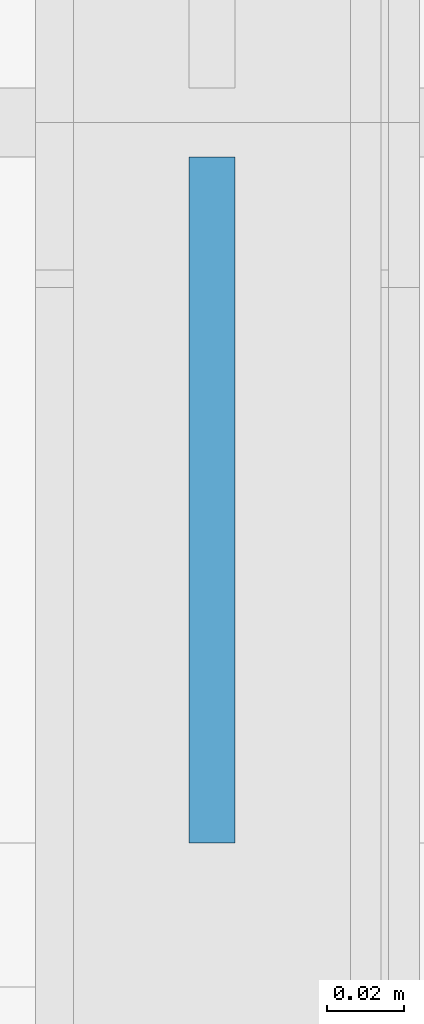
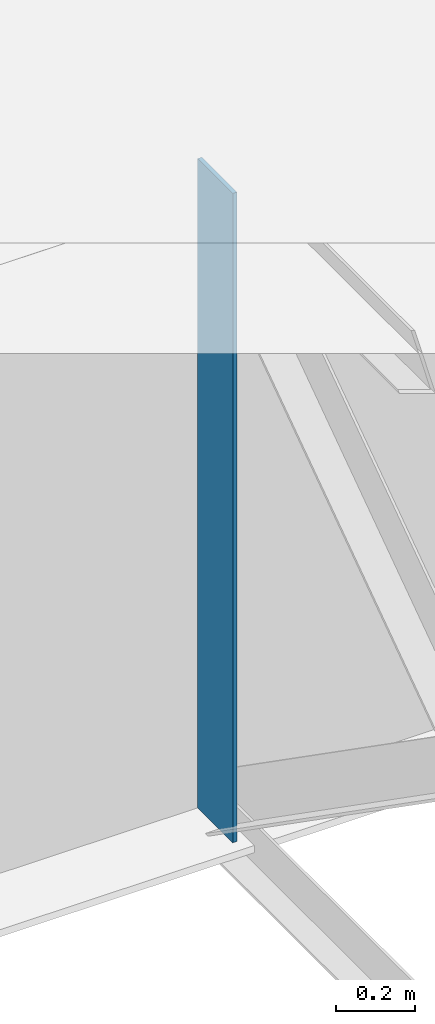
# One storey, part 6 of 11: 1 plate.
"""IFC4 building model written with IfcOpenShell, lengths in metres."""

from ifc_helpers import new_model, si_unit, frame, origin, origin_with_axes, origin_2d_with_axis, place, context, subcontext, project, spatial, rectangle, extrude, element, save


model = new_model("IFC4")

# Units and contexts
model_context = context("Model", 3, precision=1e-05, world=origin())
body_context = subcontext(model_context, "Body", "Model", "MODEL_VIEW")
ifc_project = project(units=[si_unit("LENGTHUNIT", "METRE"), si_unit("AREAUNIT", "SQUARE_METRE"), si_unit("VOLUMEUNIT", "CUBIC_METRE"), si_unit("PLANEANGLEUNIT", "RADIAN")], contexts=[model_context])

# Site, building, storey
site_placement = place(None, origin_with_axes())
site = spatial("IfcSite", under=ifc_project, at=site_placement, Name="Default Site")
building_placement = place(site_placement, origin_with_axes())
building = spatial("IfcBuilding", under=site, at=building_placement, Name="Bridge Structure")
storey_placement = place(building_placement, origin_with_axes())
storey = spatial("IfcBuildingStorey", under=building, at=storey_placement, Name="Superstructure")

# Plate
plate_placement = place(storey_placement, frame((17.496, -0.09825, -1.005), z_axis=(0.0, 0.0, 1.0), x_axis=(1.0, 0.0, 0.0)))
element("IfcPlate", 1, at=plate_placement, inside=storey, Name="Intermediate Stiffener 2", context=body_context, shape_type="SweptSolid", body=[
    extrude(rectangle(XDim=0.012, YDim=0.1785, at=origin_2d_with_axis()), origin_with_axes(), (0.0, 0.0, 1.0), 2.01),
])

save(model, "model.ifc")
